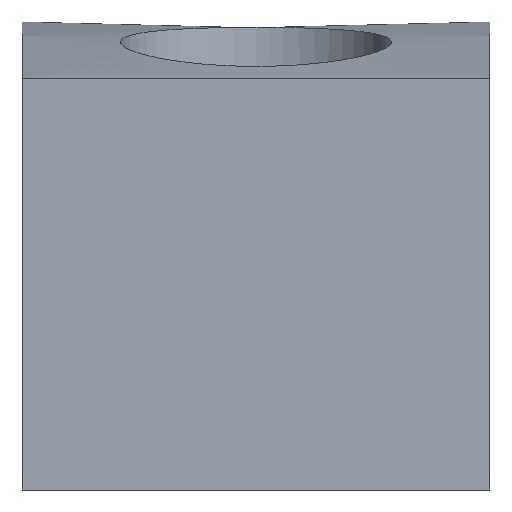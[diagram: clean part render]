
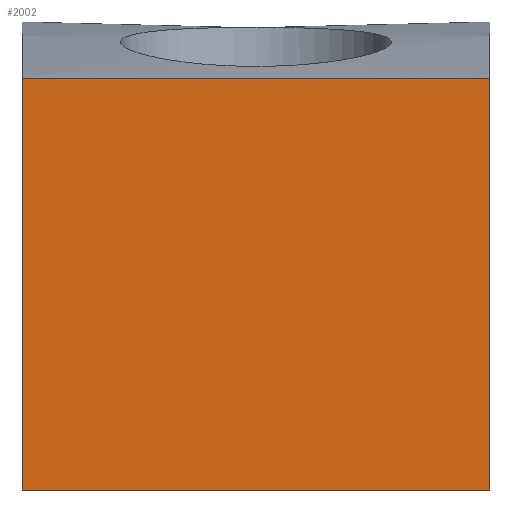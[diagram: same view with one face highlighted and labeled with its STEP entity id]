
A CAD part, left-side view. The second image highlights one B-rep face of the part: STEP entity #2002.
In plain terms, the highlighted planar face has unit normal (-1, 0, 0).
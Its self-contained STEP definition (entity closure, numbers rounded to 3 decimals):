
#96=PLANE('',#2193);
#214=FACE_OUTER_BOUND('',#334,.T.);
#334=EDGE_LOOP('',(#1400,#1401,#1402,#1403));
#482=LINE('',#3014,#656);
#484=LINE('',#3090,#658);
#485=LINE('',#3092,#659);
#486=LINE('',#3093,#660);
#656=VECTOR('',#2411,10.);
#658=VECTOR('',#2417,10.);
#659=VECTOR('',#2418,10.);
#660=VECTOR('',#2419,10.);
#919=VERTEX_POINT('',#3010);
#921=VERTEX_POINT('',#3013);
#925=VERTEX_POINT('',#3089);
#926=VERTEX_POINT('',#3091);
#1114=EDGE_CURVE('',#921,#919,#482,.T.);
#1119=EDGE_CURVE('',#925,#919,#484,.T.);
#1120=EDGE_CURVE('',#926,#925,#485,.T.);
#1121=EDGE_CURVE('',#926,#921,#486,.T.);
#1400=ORIENTED_EDGE('',*,*,#1114,.T.);
#1401=ORIENTED_EDGE('',*,*,#1119,.F.);
#1402=ORIENTED_EDGE('',*,*,#1120,.F.);
#1403=ORIENTED_EDGE('',*,*,#1121,.T.);
#2002=ADVANCED_FACE('',(#214),#96,.T.);
#2193=AXIS2_PLACEMENT_3D('',#3088,#2415,#2416);
#2411=DIRECTION('',(0.,1.,0.));
#2415=DIRECTION('center_axis',(-1.,0.,0.));
#2416=DIRECTION('ref_axis',(0.,-1.,0.));
#2417=DIRECTION('',(0.,0.,1.));
#2418=DIRECTION('',(0.,1.,0.));
#2419=DIRECTION('',(0.,0.,1.));
#3010=CARTESIAN_POINT('',(-25.,12.5,22.));
#3013=CARTESIAN_POINT('',(-25.,-12.5,22.));
#3014=CARTESIAN_POINT('',(-25.,-12.5,22.));
#3088=CARTESIAN_POINT('Origin',(-25.,12.5,0.));
#3089=CARTESIAN_POINT('',(-25.,12.5,0.));
#3090=CARTESIAN_POINT('',(-25.,12.5,0.));
#3091=CARTESIAN_POINT('',(-25.,-12.5,0.));
#3092=CARTESIAN_POINT('',(-25.,-12.5,0.));
#3093=CARTESIAN_POINT('',(-25.,-12.5,0.));
